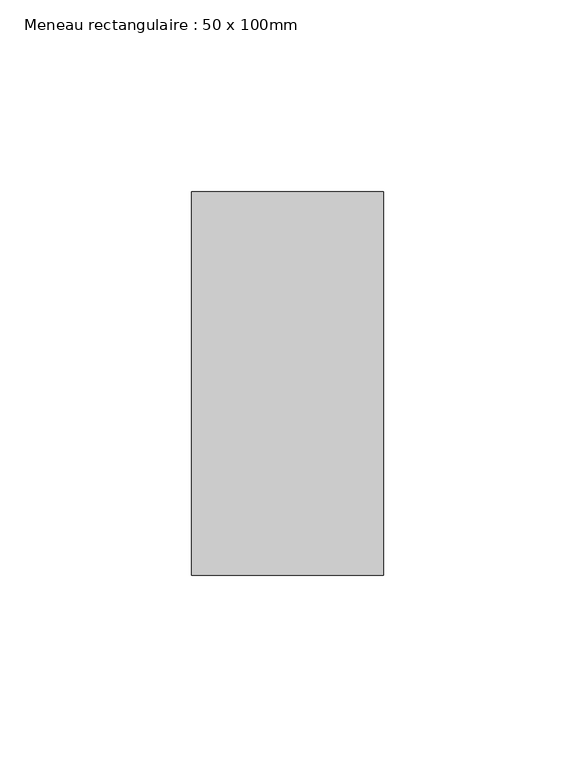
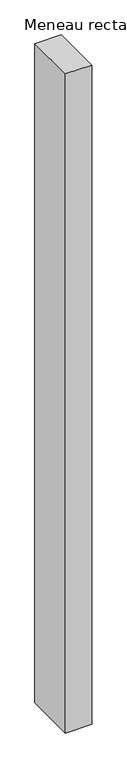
"""IFC4 building model written with IfcOpenShell, lengths in millimetres: member geometry, Meneau rectangulaire : 50 x 100mm."""

import ifcopenshell
import ifcopenshell.guid

model = None  # the IFC model being written
_history = None  # IfcOwnerHistory: only IFC2X3 demands one
_inside = {}  # id of a spatial element -> (the spatial element, [elements in it])
_under = {}  # id of a project, library or spatial element -> (it, [spatial elements below it])
_declared = {}  # id of a project -> (the project, [libraries it declares])
_typed = {}  # id of a type object -> (the type object, [elements of that type])
_made_of = {}  # id of a material, layer set ... -> (it, [elements and type objects made of it])


def new_model(schema):
    """Start an empty IFC model of exactly this schema.

    Asked for "IFC4X3", IfcOpenShell would pick the latest addendum, in which some entities
    have other attributes; the version numbers below select the first issue.
    IFC2X3 requires an IfcOwnerHistory on every rooted entity: one is made here for all.
    """
    global model, _history
    if schema == "IFC4X3":
        model = ifcopenshell.file(schema_version=(4, 3, 0, 0))
    else:
        model = ifcopenshell.file(schema=schema)
    _inside.clear()
    _under.clear()
    _declared.clear()
    _typed.clear()
    _made_of.clear()
    _history = None
    if model.schema == "IFC2X3":
        org = make("IfcOrganization", Name="unknown")
        user = make(
            "IfcPersonAndOrganization",
            ThePerson=make("IfcPerson", FamilyName="unknown"),
            TheOrganization=org,
        )
        app = make(
            "IfcApplication",
            ApplicationDeveloper=org,
            Version="unknown",
            ApplicationFullName="unknown",
            ApplicationIdentifier="unknown",
        )
        _history = make(
            "IfcOwnerHistory",
            OwningUser=user,
            OwningApplication=app,
            ChangeAction="ADDED",
            CreationDate=0,
        )
    return model


def make(cls, **values):
    """One entity of the class cls with the attributes given. An attribute that is None is left unset."""
    return model.create_entity(
        cls, **{name: value for name, value in values.items() if value is not None}
    )


def rooted(cls, **values):
    """An entity with a GlobalId (a new one), such as an element, a storey or a relation."""
    return make(cls, GlobalId=ifcopenshell.guid.new(), OwnerHistory=_history, **values)


def si_unit(unit_type, name, prefix=None):
    """IfcSIUnit, for example si_unit("LENGTHUNIT", "METRE", prefix="MILLI")."""
    return make("IfcSIUnit", UnitType=unit_type, Prefix=prefix, Name=name)


def assignment(units):
    """IfcUnitAssignment: the units of a project."""
    return None if units is None else make("IfcUnitAssignment", Units=units)


def point(xyz):
    """IfcCartesianPoint."""
    return None if xyz is None else make("IfcCartesianPoint", Coordinates=xyz)


def direction(xyz):
    """IfcDirection."""
    return None if xyz is None else make("IfcDirection", DirectionRatios=xyz)


def frame(location, z_axis=None, x_axis=None):
    """IfcAxis2Placement3D, a coordinate frame: its origin and axes. An axis left out is left unset."""
    return make(
        "IfcAxis2Placement3D",
        Location=point(location),
        Axis=direction(z_axis),
        RefDirection=direction(x_axis),
    )


def origin():
    """The frame at (0, 0, 0) with its axes left unset."""
    return frame((0.0, 0.0, 0.0))


def place(relative_to, where):
    """IfcLocalPlacement: puts the frame where relative to a parent placement (None: the world)."""
    return make(
        "IfcLocalPlacement", PlacementRelTo=relative_to, RelativePlacement=where
    )


def context(
    kind, dimensions, precision=None, world=None, true_north=None, identifier=None
):
    """IfcGeometricRepresentationContext, for example the 3D "Model" context."""
    return make(
        "IfcGeometricRepresentationContext",
        ContextIdentifier=identifier,
        ContextType=kind,
        CoordinateSpaceDimension=dimensions,
        Precision=precision,
        WorldCoordinateSystem=world,
        TrueNorth=true_north,
    )


def project(units=None, contexts=None):
    """IfcProject with its units and contexts."""
    return rooted(
        "IfcProject",
        Name="project",
        RepresentationContexts=contexts,
        UnitsInContext=assignment(units),
    )


def spatial(cls, under=None, at=None, **own):
    """A site, building, storey or space (cls), placed at a placement, below another one or the project."""
    s = rooted(cls, ObjectPlacement=at, **own)
    if under is not None:
        _under.setdefault(under.id(), (under, []))[1].append(s)
    return s


def polyline(points):
    """IfcPolyline through the points."""
    return make("IfcPolyline", Points=[point(p) for p in points])


def outline(outer, holes=None, kind="AREA"):
    """IfcArbitraryClosedProfileDef: a profile drawn as a closed curve; with holes, ...WithVoids."""
    if holes is None:
        return make("IfcArbitraryClosedProfileDef", ProfileType=kind, OuterCurve=outer)
    return make(
        "IfcArbitraryProfileDefWithVoids",
        ProfileType=kind,
        OuterCurve=outer,
        InnerCurves=holes,
    )


def extrude(swept, where, along, depth):
    """IfcExtrudedAreaSolid: the profile swept, set in the frame where, extruded along a direction by depth."""
    return make(
        "IfcExtrudedAreaSolid",
        SweptArea=swept,
        Position=where,
        ExtrudedDirection=direction(along),
        Depth=depth,
    )


def shape(context_of_items, identifier, shape_type, items):
    """IfcShapeRepresentation: the items that make up one representation, for example the "Body"."""
    return make(
        "IfcShapeRepresentation",
        ContextOfItems=context_of_items,
        RepresentationIdentifier=identifier,
        RepresentationType=shape_type,
        Items=items,
    )


def source(mapping_origin, context_of_items, identifier, shape_type, items):
    """IfcRepresentationMap: a shape defined once, which mapped items show again and again."""
    return make(
        "IfcRepresentationMap",
        MappingOrigin=mapping_origin,
        MappedRepresentation=shape(context_of_items, identifier, shape_type, items),
    )


def transform(
    local_origin,
    x_axis=None,
    y_axis=None,
    z_axis=None,
    scale=None,
    scale2=None,
    scale3=None,
    uniform=True,
):
    """IfcCartesianTransformationOperator3D, or its non-uniform kind. x_axis, y_axis, z_axis: its Axis1, 2, 3."""
    if uniform:
        return make(
            "IfcCartesianTransformationOperator3D",
            Axis1=direction(x_axis),
            Axis2=direction(y_axis),
            LocalOrigin=point(local_origin),
            Scale=scale,
            Axis3=direction(z_axis),
        )
    return make(
        "IfcCartesianTransformationOperator3DnonUniform",
        Axis1=direction(x_axis),
        Axis2=direction(y_axis),
        LocalOrigin=point(local_origin),
        Scale=scale,
        Axis3=direction(z_axis),
        Scale2=scale2,
        Scale3=scale3,
    )


def mapped(mapping_source, mapping_target):
    """IfcMappedItem: shows the shape of a source again, moved by a transform."""
    return make(
        "IfcMappedItem", MappingSource=mapping_source, MappingTarget=mapping_target
    )


def made_of(thing, what):
    """Note that an element or type object is made of a material, layer set ...; save() writes the relation."""
    if what is not None:
        _made_of.setdefault(what.id(), (what, []))[1].append(thing)
    return thing


def element(
    cls,
    number,
    at=None,
    inside=None,
    cuts=None,
    type_object=None,
    material=None,
    context=None,
    identifier="Body",
    shape_type=None,
    held_by="IfcProductDefinitionShape",
    body=None,
    shapes=None,
    **own,
):
    """One element of the class cls, such as IfcWall. Its Tag is "e" and its number.

    at: its placement. inside: the storey or other place that contains it. cuts: it is an
    opening in that element (IfcRelVoidsElement). A single representation is given by context,
    identifier, shape_type and body (its items); several are given by shapes. held_by: the class
    of the entity that holds the representations. save() writes the other relations.
    """
    e = rooted(cls, Tag="e%d" % number, ObjectPlacement=at, **own)
    if body is not None:
        shapes = [shape(context, identifier, shape_type, body)]
    if shapes is not None:
        e.Representation = make(held_by, Representations=shapes)
    if inside is not None:
        _inside.setdefault(inside.id(), (inside, []))[1].append(e)
    if cuts is not None:
        rooted(
            "IfcRelVoidsElement", RelatingBuildingElement=cuts, RelatedOpeningElement=e
        )
    if type_object is not None:
        _typed.setdefault(type_object.id(), (type_object, []))[1].append(e)
    return made_of(e, material)


def aggregate(whole, parts):
    """IfcRelAggregates: a whole, such as a stair, and the parts it consists of."""
    return rooted("IfcRelAggregates", RelatingObject=whole, RelatedObjects=parts)


def save(model, path):
    """Write the relations noted so far, then the file.

    IfcRelAggregates (storeys below a building ...), IfcRelContainedInSpatialStructure (elements
    in a storey), IfcRelDefinesByType, IfcRelAssociatesMaterial and IfcRelDeclares: one each for
    every whole, place, type object, material and project.
    """
    for whole, parts in _under.values():
        aggregate(whole, parts)
    for where, things in _inside.values():
        rooted(
            "IfcRelContainedInSpatialStructure",
            RelatedElements=things,
            RelatingStructure=where,
        )
    for kind, things in _typed.values():
        rooted("IfcRelDefinesByType", RelatedObjects=things, RelatingType=kind)
    for what, things in _made_of.values():
        rooted("IfcRelAssociatesMaterial", RelatedObjects=things, RelatingMaterial=what)
    for by, libraries in _declared.values():
        rooted("IfcRelDeclares", RelatingContext=by, RelatedDefinitions=libraries)
    model.write(path)


def meneau_rectangulaire_50_x_100mm_9988052a(model_context):
    return source(origin(), model_context, "Body", "SweptSolid", [
        extrude(outline(polyline([(25.0, 50.0), (25.0, -50.0), (-25.0, -50.0), (-25.0, 50.0), (25.0, 50.0)])), frame((0.0, 0.0, -1318.3333333), z_axis=(0.0, 0.0, 1.0), x_axis=(1.0, 0.0, 0.0)), (0.0, 0.0, 1.0), 1318.3333333),
    ])


if __name__ == "__main__":
    model = new_model("IFC4")
    model_context = context("Model", 3, world=origin())
    ifc_project = project(units=[si_unit("LENGTHUNIT", "METRE", prefix="MILLI")], contexts=[model_context])
    site = spatial("IfcSite", under=ifc_project)
    building = spatial("IfcBuilding", under=site)
    placement = place(None, origin())
    meneau_rectangulaire_50_x_100mm_shape = meneau_rectangulaire_50_x_100mm_9988052a(model_context)
    element("IfcMember", 1, ObjectType="Meneau rectangulaire : 50 x 100mm", at=placement, inside=building, context=model_context, shape_type="MappedRepresentation", body=[
        mapped(meneau_rectangulaire_50_x_100mm_shape, transform((0.0, 0.0, 0.0), x_axis=(1.0, 0.0, 0.0), y_axis=(0.0, 1.0, 0.0), z_axis=(0.0, 0.0, 1.0))),
    ])
    save(model, "model.ifc")
